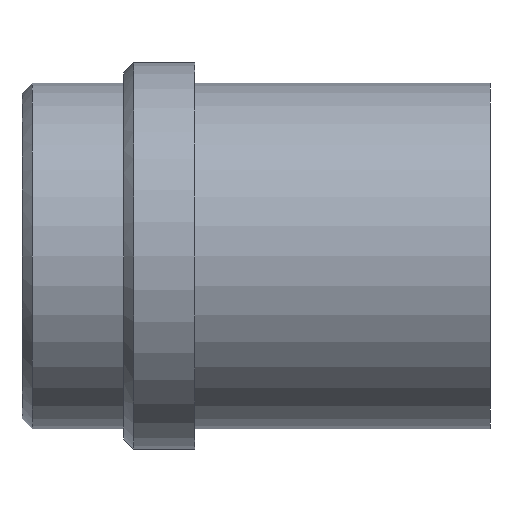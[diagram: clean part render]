
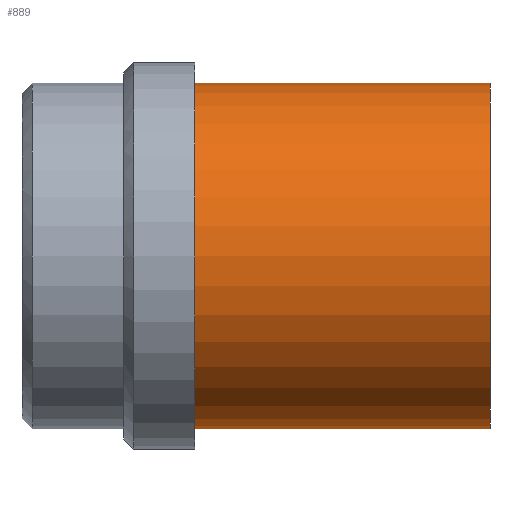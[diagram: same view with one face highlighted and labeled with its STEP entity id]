
A CAD part, front view. The second image highlights one B-rep face of the part: STEP entity #889.
In plain terms, the highlighted cylindrical face has radius 17 mm (diameter 34 mm), a partial arc.
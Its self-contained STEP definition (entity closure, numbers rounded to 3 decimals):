
#723=CARTESIAN_POINT('Vertex',(29.,0.,17.)) ;
#726=CARTESIAN_POINT('Axis2P3D Location',(29.,0.,0.)) ;
#730=CARTESIAN_POINT('Vertex',(29.,-17.,0.)) ;
#733=CARTESIAN_POINT('Axis2P3D Location',(29.,0.,0.)) ;
#737=CARTESIAN_POINT('Vertex',(29.,0.,-17.)) ;
#829=CARTESIAN_POINT('Line Origine',(29.,0.,17.)) ;
#833=CARTESIAN_POINT('Vertex',(0.,0.,17.)) ;
#836=CARTESIAN_POINT('Line Origine',(29.,0.,-17.)) ;
#840=CARTESIAN_POINT('Vertex',(0.,0.,-17.)) ;
#864=CARTESIAN_POINT('Axis2P3D Location',(29.,0.,0.)) ;
#869=CARTESIAN_POINT('Axis2P3D Location',(0.,0.,0.)) ;
#873=CARTESIAN_POINT('Vertex',(0.,-17.,0.)) ;
#876=CARTESIAN_POINT('Axis2P3D Location',(0.,0.,0.)) ;
#727=DIRECTION('Axis2P3D Direction',(1.,0.,-0.)) ;
#734=DIRECTION('Axis2P3D Direction',(1.,0.,-0.)) ;
#830=DIRECTION('Vector Direction',(-1.,0.,0.)) ;
#837=DIRECTION('Vector Direction',(-1.,0.,0.)) ;
#865=DIRECTION('Axis2P3D Direction',(-1.,-0.,-0.)) ;
#866=DIRECTION('Axis2P3D XDirection',(0.,0.,-1.)) ;
#870=DIRECTION('Axis2P3D Direction',(-1.,-0.,-0.)) ;
#877=DIRECTION('Axis2P3D Direction',(-1.,-0.,-0.)) ;
#728=AXIS2_PLACEMENT_3D('Circle Axis2P3D',#726,#727,$) ;
#735=AXIS2_PLACEMENT_3D('Circle Axis2P3D',#733,#734,$) ;
#867=AXIS2_PLACEMENT_3D('Cylinder Axis2P3D',#864,#865,#866) ;
#871=AXIS2_PLACEMENT_3D('Circle Axis2P3D',#869,#870,$) ;
#878=AXIS2_PLACEMENT_3D('Circle Axis2P3D',#876,#877,$) ;
#882=ORIENTED_EDGE('',*,*,#842,.T.) ;
#883=ORIENTED_EDGE('',*,*,#739,.F.) ;
#884=ORIENTED_EDGE('',*,*,#732,.F.) ;
#885=ORIENTED_EDGE('',*,*,#835,.T.) ;
#886=ORIENTED_EDGE('',*,*,#875,.T.) ;
#887=ORIENTED_EDGE('',*,*,#880,.T.) ;
#831=VECTOR('Line Direction',#830,1.) ;
#838=VECTOR('Line Direction',#837,1.) ;
#889=ADVANCED_FACE('358-25X46',(#888),#868,.T.) ;
#729=CIRCLE('generated circle',#728,17.) ;
#736=CIRCLE('generated circle',#735,17.) ;
#872=CIRCLE('generated circle',#871,17.) ;
#879=CIRCLE('generated circle',#878,17.) ;
#868=CYLINDRICAL_SURFACE('generated cylinder',#867,17.) ;
#732=EDGE_CURVE('',#724,#731,#729,.T.) ;
#739=EDGE_CURVE('',#731,#738,#736,.T.) ;
#835=EDGE_CURVE('',#724,#834,#832,.T.) ;
#842=EDGE_CURVE('',#841,#738,#839,.F.) ;
#875=EDGE_CURVE('',#834,#874,#872,.F.) ;
#880=EDGE_CURVE('',#874,#841,#879,.F.) ;
#881=EDGE_LOOP('',(#882,#883,#884,#885,#886,#887)) ;
#888=FACE_OUTER_BOUND('',#881,.T.) ;
#832=LINE('Line',#829,#831) ;
#839=LINE('Line',#836,#838) ;
#724=VERTEX_POINT('',#723) ;
#731=VERTEX_POINT('',#730) ;
#738=VERTEX_POINT('',#737) ;
#834=VERTEX_POINT('',#833) ;
#841=VERTEX_POINT('',#840) ;
#874=VERTEX_POINT('',#873) ;
